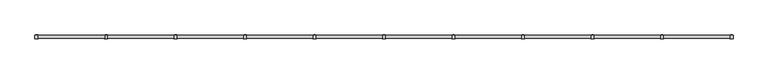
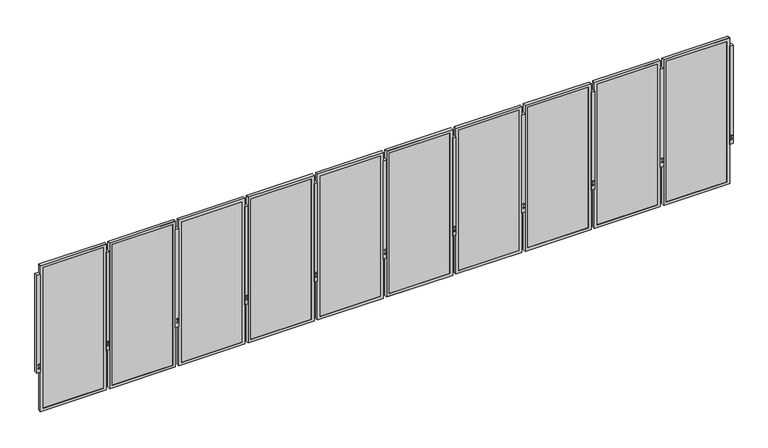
"""IFC4 building model written with IfcOpenShell, lengths in millimetres: railing geometry, Railing - Amico Architectural - Expanded Mesh Railing - Apex03."""

import ifcopenshell
import ifcopenshell.guid

model = None  # the IFC model being written
_history = None  # IfcOwnerHistory: only IFC2X3 demands one
_inside = {}  # id of a spatial element -> (the spatial element, [elements in it])
_under = {}  # id of a project, library or spatial element -> (it, [spatial elements below it])
_declared = {}  # id of a project -> (the project, [libraries it declares])
_typed = {}  # id of a type object -> (the type object, [elements of that type])
_made_of = {}  # id of a material, layer set ... -> (it, [elements and type objects made of it])


def new_model(schema):
    """Start an empty IFC model of exactly this schema.

    Asked for "IFC4X3", IfcOpenShell would pick the latest addendum, in which some entities
    have other attributes; the version numbers below select the first issue.
    IFC2X3 requires an IfcOwnerHistory on every rooted entity: one is made here for all.
    """
    global model, _history
    if schema == "IFC4X3":
        model = ifcopenshell.file(schema_version=(4, 3, 0, 0))
    else:
        model = ifcopenshell.file(schema=schema)
    _inside.clear()
    _under.clear()
    _declared.clear()
    _typed.clear()
    _made_of.clear()
    _history = None
    if model.schema == "IFC2X3":
        org = make("IfcOrganization", Name="unknown")
        user = make(
            "IfcPersonAndOrganization",
            ThePerson=make("IfcPerson", FamilyName="unknown"),
            TheOrganization=org,
        )
        app = make(
            "IfcApplication",
            ApplicationDeveloper=org,
            Version="unknown",
            ApplicationFullName="unknown",
            ApplicationIdentifier="unknown",
        )
        _history = make(
            "IfcOwnerHistory",
            OwningUser=user,
            OwningApplication=app,
            ChangeAction="ADDED",
            CreationDate=0,
        )
    return model


def make(cls, **values):
    """One entity of the class cls with the attributes given. An attribute that is None is left unset."""
    return model.create_entity(
        cls, **{name: value for name, value in values.items() if value is not None}
    )


def rooted(cls, **values):
    """An entity with a GlobalId (a new one), such as an element, a storey or a relation."""
    return make(cls, GlobalId=ifcopenshell.guid.new(), OwnerHistory=_history, **values)


def si_unit(unit_type, name, prefix=None):
    """IfcSIUnit, for example si_unit("LENGTHUNIT", "METRE", prefix="MILLI")."""
    return make("IfcSIUnit", UnitType=unit_type, Prefix=prefix, Name=name)


def assignment(units):
    """IfcUnitAssignment: the units of a project."""
    return None if units is None else make("IfcUnitAssignment", Units=units)


def point(xyz):
    """IfcCartesianPoint."""
    return None if xyz is None else make("IfcCartesianPoint", Coordinates=xyz)


def direction(xyz):
    """IfcDirection."""
    return None if xyz is None else make("IfcDirection", DirectionRatios=xyz)


def frame(location, z_axis=None, x_axis=None):
    """IfcAxis2Placement3D, a coordinate frame: its origin and axes. An axis left out is left unset."""
    return make(
        "IfcAxis2Placement3D",
        Location=point(location),
        Axis=direction(z_axis),
        RefDirection=direction(x_axis),
    )


def origin():
    """The frame at (0, 0, 0) with its axes left unset."""
    return frame((0.0, 0.0, 0.0))


def place(relative_to, where):
    """IfcLocalPlacement: puts the frame where relative to a parent placement (None: the world)."""
    return make(
        "IfcLocalPlacement", PlacementRelTo=relative_to, RelativePlacement=where
    )


def context(
    kind, dimensions, precision=None, world=None, true_north=None, identifier=None
):
    """IfcGeometricRepresentationContext, for example the 3D "Model" context."""
    return make(
        "IfcGeometricRepresentationContext",
        ContextIdentifier=identifier,
        ContextType=kind,
        CoordinateSpaceDimension=dimensions,
        Precision=precision,
        WorldCoordinateSystem=world,
        TrueNorth=true_north,
    )


def project(units=None, contexts=None):
    """IfcProject with its units and contexts."""
    return rooted(
        "IfcProject",
        Name="project",
        RepresentationContexts=contexts,
        UnitsInContext=assignment(units),
    )


def spatial(cls, under=None, at=None, **own):
    """A site, building, storey or space (cls), placed at a placement, below another one or the project."""
    s = rooted(cls, ObjectPlacement=at, **own)
    if under is not None:
        _under.setdefault(under.id(), (under, []))[1].append(s)
    return s


def polyline(points):
    """IfcPolyline through the points."""
    return make("IfcPolyline", Points=[point(p) for p in points])


def outline(outer, holes=None, kind="AREA"):
    """IfcArbitraryClosedProfileDef: a profile drawn as a closed curve; with holes, ...WithVoids."""
    if holes is None:
        return make("IfcArbitraryClosedProfileDef", ProfileType=kind, OuterCurve=outer)
    return make(
        "IfcArbitraryProfileDefWithVoids",
        ProfileType=kind,
        OuterCurve=outer,
        InnerCurves=holes,
    )


def extrude(swept, where, along, depth):
    """IfcExtrudedAreaSolid: the profile swept, set in the frame where, extruded along a direction by depth."""
    return make(
        "IfcExtrudedAreaSolid",
        SweptArea=swept,
        Position=where,
        ExtrudedDirection=direction(along),
        Depth=depth,
    )


def faces_of(points, faces, orient=None, outer=None):
    """IfcFace entities. A face is a list of loops; a loop is a list of indices into points, from 0.

    orient and outer hold one flag for each loop. By default every Orientation is true, the
    first loop of a face is its IfcFaceOuterBound and the others are IfcFaceBound.
    """
    made = []
    for i, loops in enumerate(faces):
        bounds = []
        for j, loop in enumerate(loops):
            is_outer = j == 0 if outer is None else outer[i][j]
            bounds.append(
                make(
                    "IfcFaceOuterBound" if is_outer else "IfcFaceBound",
                    Bound=make("IfcPolyLoop", Polygon=[points[k] for k in loop]),
                    Orientation=True if orient is None else orient[i][j],
                )
            )
        made.append(make("IfcFace", Bounds=bounds))
    return made


def faceted_brep(points, faces, orient=None, outer=None, voids=None):
    """IfcFacetedBrep: a solid bounded by flat faces; with voids (closed shells), ...WithVoids."""
    shared = [point(p) for p in points]
    hull = make("IfcClosedShell", CfsFaces=faces_of(shared, faces, orient, outer))
    if voids is None:
        return make("IfcFacetedBrep", Outer=hull)
    return make(
        "IfcFacetedBrepWithVoids",
        Outer=hull,
        Voids=[
            make(cls, CfsFaces=faces_of(shared, fs, o, b)) for cls, fs, o, b in voids
        ],
    )


def shape(context_of_items, identifier, shape_type, items):
    """IfcShapeRepresentation: the items that make up one representation, for example the "Body"."""
    return make(
        "IfcShapeRepresentation",
        ContextOfItems=context_of_items,
        RepresentationIdentifier=identifier,
        RepresentationType=shape_type,
        Items=items,
    )


def source(mapping_origin, context_of_items, identifier, shape_type, items):
    """IfcRepresentationMap: a shape defined once, which mapped items show again and again."""
    return make(
        "IfcRepresentationMap",
        MappingOrigin=mapping_origin,
        MappedRepresentation=shape(context_of_items, identifier, shape_type, items),
    )


def transform(
    local_origin,
    x_axis=None,
    y_axis=None,
    z_axis=None,
    scale=None,
    scale2=None,
    scale3=None,
    uniform=True,
):
    """IfcCartesianTransformationOperator3D, or its non-uniform kind. x_axis, y_axis, z_axis: its Axis1, 2, 3."""
    if uniform:
        return make(
            "IfcCartesianTransformationOperator3D",
            Axis1=direction(x_axis),
            Axis2=direction(y_axis),
            LocalOrigin=point(local_origin),
            Scale=scale,
            Axis3=direction(z_axis),
        )
    return make(
        "IfcCartesianTransformationOperator3DnonUniform",
        Axis1=direction(x_axis),
        Axis2=direction(y_axis),
        LocalOrigin=point(local_origin),
        Scale=scale,
        Axis3=direction(z_axis),
        Scale2=scale2,
        Scale3=scale3,
    )


def mapped(mapping_source, mapping_target):
    """IfcMappedItem: shows the shape of a source again, moved by a transform."""
    return make(
        "IfcMappedItem", MappingSource=mapping_source, MappingTarget=mapping_target
    )


def made_of(thing, what):
    """Note that an element or type object is made of a material, layer set ...; save() writes the relation."""
    if what is not None:
        _made_of.setdefault(what.id(), (what, []))[1].append(thing)
    return thing


def element(
    cls,
    number,
    at=None,
    inside=None,
    cuts=None,
    type_object=None,
    material=None,
    context=None,
    identifier="Body",
    shape_type=None,
    held_by="IfcProductDefinitionShape",
    body=None,
    shapes=None,
    **own,
):
    """One element of the class cls, such as IfcWall. Its Tag is "e" and its number.

    at: its placement. inside: the storey or other place that contains it. cuts: it is an
    opening in that element (IfcRelVoidsElement). A single representation is given by context,
    identifier, shape_type and body (its items); several are given by shapes. held_by: the class
    of the entity that holds the representations. save() writes the other relations.
    """
    e = rooted(cls, Tag="e%d" % number, ObjectPlacement=at, **own)
    if body is not None:
        shapes = [shape(context, identifier, shape_type, body)]
    if shapes is not None:
        e.Representation = make(held_by, Representations=shapes)
    if inside is not None:
        _inside.setdefault(inside.id(), (inside, []))[1].append(e)
    if cuts is not None:
        rooted(
            "IfcRelVoidsElement", RelatingBuildingElement=cuts, RelatedOpeningElement=e
        )
    if type_object is not None:
        _typed.setdefault(type_object.id(), (type_object, []))[1].append(e)
    return made_of(e, material)


def aggregate(whole, parts):
    """IfcRelAggregates: a whole, such as a stair, and the parts it consists of."""
    return rooted("IfcRelAggregates", RelatingObject=whole, RelatedObjects=parts)


def save(model, path):
    """Write the relations noted so far, then the file.

    IfcRelAggregates (storeys below a building ...), IfcRelContainedInSpatialStructure (elements
    in a storey), IfcRelDefinesByType, IfcRelAssociatesMaterial and IfcRelDeclares: one each for
    every whole, place, type object, material and project.
    """
    for whole, parts in _under.values():
        aggregate(whole, parts)
    for where, things in _inside.values():
        rooted(
            "IfcRelContainedInSpatialStructure",
            RelatedElements=things,
            RelatingStructure=where,
        )
    for kind, things in _typed.values():
        rooted("IfcRelDefinesByType", RelatedObjects=things, RelatingType=kind)
    for what, things in _made_of.values():
        rooted("IfcRelAssociatesMaterial", RelatedObjects=things, RelatingMaterial=what)
    for by, libraries in _declared.values():
        rooted("IfcRelDeclares", RelatingContext=by, RelatedDefinitions=libraries)
    model.write(path)


def railing_6d0a6d45(model_context):
    return source(origin(), model_context, "Body", "SolidModel", [
        extrude(outline(polyline([(-18536.7626958, -25626.6702664), (-18485.9626958, -25626.6702664), (-18485.9626958, -25677.4702664), (-18536.7626958, -25677.4702664), (-18536.7626958, -25626.6702664)])), frame((0.0, 0.0, -609.6), z_axis=(0.0, 0.0, 1.0), x_axis=(1.0, 0.0, 0.0)), (0.0, 0.0, 1.0), 1524.0),
        extrude(outline(polyline([(-530.1129981, -18521.783266), (-542.3802561, -18518.4962641), (-545.667258, -18506.2290061), (-536.6870019, -18497.24875), (-524.4197439, -18500.5357519), (-521.132742, -18512.8030099), (-530.1129981, -18521.783266)])), frame((0.0, -25679.3169542, 0.0), z_axis=(0.0, 1.0, 0.0), x_axis=(0.0, 0.0, 1.0)), (0.0, 0.0, 1.0), 54.4933756),
        extrude(outline(polyline([(-479.3129981, -18521.783266), (-491.5802561, -18518.4962641), (-494.867258, -18506.2290061), (-485.8870019, -18497.24875), (-473.6197439, -18500.5357519), (-470.332742, -18512.8030099), (-479.3129981, -18521.783266)])), frame((0.0, -25679.3169542, 0.0), z_axis=(0.0, 1.0, 0.0), x_axis=(0.0, 0.0, 1.0)), (0.0, 0.0, 1.0), 54.4933756),
        faceted_brep([(-19503.1671492, -25673.8634664, -1222.375), (-18534.7921492, -25673.8634664, -1222.375), (-18534.7921492, -25673.8634664, 1044.575), (-19503.1671492, -25673.8634664, 1044.575), (-19461.8921492, -25673.8634664, 1003.3), (-18576.0671492, -25673.8634664, 1003.3), (-18576.0671492, -25673.8634664, -1181.1), (-19461.8921492, -25673.8634664, -1181.1), (-19461.8921492, -25671.1202664, 1003.3), (-19461.8921492, -25671.1202664, -1181.1), (-19503.1671492, -25629.9901699, 1044.575), (-19503.1671492, -25629.9901699, -1222.375), (-19499.9921492, -25629.9901699, 1041.4), (-19499.9921492, -25671.1202664, 1041.4), (-19499.9921492, -25671.1202664, -1219.2), (-19499.9921492, -25629.9901699, -1219.2), (-18576.0671492, -25671.1202664, -1181.1), (-18534.7921492, -25629.9901699, -1222.375), (-18537.9671492, -25671.1202664, -1219.2), (-18537.9671492, -25629.9901699, -1219.2), (-18576.0671492, -25671.1202664, 1003.3), (-18534.7921492, -25629.9901699, 1044.575), (-18537.9671492, -25671.1202664, 1041.4), (-18537.9671492, -25629.9901699, 1041.4)], [[[0, 1, 2, 3], [4, 5, 6, 7]], [[8, 4, 7, 9]], [[3, 10, 11, 0]], [[12, 13, 14, 15]], [[9, 7, 6, 16]], [[0, 11, 17, 1]], [[15, 14, 18, 19]], [[16, 6, 5, 20]], [[1, 17, 21, 2]], [[19, 18, 22, 23]], [[20, 5, 4, 8]], [[10, 21, 17, 11], [15, 19, 23, 12]], [[2, 21, 10, 3]], [[13, 22, 18, 14], [9, 16, 20, 8]], [[23, 22, 13, 12]]]),
        extrude(outline(polyline([(-19499.9921492, -25661.5952664), (-18537.9671492, -25661.5952664), (-18537.9671492, -25671.1202664), (-19499.9921492, -25671.1202664), (-19499.9921492, -25661.5952664)])), frame((0.0, 0.0, -1219.2), z_axis=(0.0, 0.0, 1.0), x_axis=(1.0, 0.0, 0.0)), (0.0, 0.0, 1.0), 2260.6),
        extrude(outline(polyline([(-19554.3501958, -25626.6702664), (-19503.5501958, -25626.6702664), (-19503.5501958, -25677.4702664), (-19554.3501958, -25677.4702664), (-19554.3501958, -25626.6702664)])), frame((0.0, 0.0, -609.6), z_axis=(0.0, 0.0, 1.0), x_axis=(1.0, 0.0, 0.0)), (0.0, 0.0, 1.0), 1524.0),
        extrude(outline(polyline([(-530.1129981, -19539.370766), (-542.3802561, -19536.0837641), (-545.667258, -19523.8165061), (-536.6870019, -19514.83625), (-524.4197439, -19518.1232519), (-521.132742, -19530.3905099), (-530.1129981, -19539.370766)])), frame((0.0, -25679.3169542, 0.0), z_axis=(0.0, 1.0, 0.0), x_axis=(0.0, 0.0, 1.0)), (0.0, 0.0, 1.0), 54.4933756),
        extrude(outline(polyline([(-479.3129981, -19539.370766), (-491.5802561, -19536.0837641), (-494.867258, -19523.8165061), (-485.8870019, -19514.83625), (-473.6197439, -19518.1232519), (-470.332742, -19530.3905099), (-479.3129981, -19539.370766)])), frame((0.0, -25679.3169542, 0.0), z_axis=(0.0, 1.0, 0.0), x_axis=(0.0, 0.0, 1.0)), (0.0, 0.0, 1.0), 54.4933756),
        faceted_brep([(-20520.7546492, -25673.8634664, -1222.375), (-19552.3796492, -25673.8634664, -1222.375), (-19552.3796492, -25673.8634664, 1044.575), (-20520.7546492, -25673.8634664, 1044.575), (-20479.4796492, -25673.8634664, 1003.3), (-19593.6546492, -25673.8634664, 1003.3), (-19593.6546492, -25673.8634664, -1181.1), (-20479.4796492, -25673.8634664, -1181.1), (-20479.4796492, -25671.1202664, 1003.3), (-20479.4796492, -25671.1202664, -1181.1), (-20520.7546492, -25629.9901699, 1044.575), (-20520.7546492, -25629.9901699, -1222.375), (-20517.5796492, -25629.9901699, 1041.4), (-20517.5796492, -25671.1202664, 1041.4), (-20517.5796492, -25671.1202664, -1219.2), (-20517.5796492, -25629.9901699, -1219.2), (-19593.6546492, -25671.1202664, -1181.1), (-19552.3796492, -25629.9901699, -1222.375), (-19555.5546492, -25671.1202664, -1219.2), (-19555.5546492, -25629.9901699, -1219.2), (-19593.6546492, -25671.1202664, 1003.3), (-19552.3796492, -25629.9901699, 1044.575), (-19555.5546492, -25671.1202664, 1041.4), (-19555.5546492, -25629.9901699, 1041.4)], [[[0, 1, 2, 3], [4, 5, 6, 7]], [[8, 4, 7, 9]], [[3, 10, 11, 0]], [[12, 13, 14, 15]], [[9, 7, 6, 16]], [[0, 11, 17, 1]], [[15, 14, 18, 19]], [[16, 6, 5, 20]], [[1, 17, 21, 2]], [[19, 18, 22, 23]], [[20, 5, 4, 8]], [[10, 21, 17, 11], [15, 19, 23, 12]], [[2, 21, 10, 3]], [[13, 22, 18, 14], [9, 16, 20, 8]], [[23, 22, 13, 12]]]),
        extrude(outline(polyline([(-20517.5796492, -25661.5952664), (-19555.5546492, -25661.5952664), (-19555.5546492, -25671.1202664), (-20517.5796492, -25671.1202664), (-20517.5796492, -25661.5952664)])), frame((0.0, 0.0, -1219.2), z_axis=(0.0, 0.0, 1.0), x_axis=(1.0, 0.0, 0.0)), (0.0, 0.0, 1.0), 2260.6),
        extrude(outline(polyline([(-20571.9376958, -25626.6702664), (-20521.1376958, -25626.6702664), (-20521.1376958, -25677.4702664), (-20571.9376958, -25677.4702664), (-20571.9376958, -25626.6702664)])), frame((0.0, 0.0, -609.6), z_axis=(0.0, 0.0, 1.0), x_axis=(1.0, 0.0, 0.0)), (0.0, 0.0, 1.0), 1524.0),
        extrude(outline(polyline([(-530.1129981, -20556.958266), (-542.3802561, -20553.6712641), (-545.667258, -20541.4040061), (-536.6870019, -20532.42375), (-524.4197439, -20535.7107519), (-521.132742, -20547.9780099), (-530.1129981, -20556.958266)])), frame((0.0, -25679.3169542, 0.0), z_axis=(0.0, 1.0, 0.0), x_axis=(0.0, 0.0, 1.0)), (0.0, 0.0, 1.0), 54.4933756),
        extrude(outline(polyline([(-479.3129981, -20556.958266), (-491.5802561, -20553.6712641), (-494.867258, -20541.4040061), (-485.8870019, -20532.42375), (-473.6197439, -20535.7107519), (-470.332742, -20547.9780099), (-479.3129981, -20556.958266)])), frame((0.0, -25679.3169542, 0.0), z_axis=(0.0, 1.0, 0.0), x_axis=(0.0, 0.0, 1.0)), (0.0, 0.0, 1.0), 54.4933756),
        faceted_brep([(-21538.3421492, -25673.8634664, -1222.375), (-20569.9671492, -25673.8634664, -1222.375), (-20569.9671492, -25673.8634664, 1044.575), (-21538.3421492, -25673.8634664, 1044.575), (-21497.0671492, -25673.8634664, 1003.3), (-20611.2421492, -25673.8634664, 1003.3), (-20611.2421492, -25673.8634664, -1181.1), (-21497.0671492, -25673.8634664, -1181.1), (-21497.0671492, -25671.1202664, 1003.3), (-21497.0671492, -25671.1202664, -1181.1), (-21538.3421492, -25629.9901699, 1044.575), (-21538.3421492, -25629.9901699, -1222.375), (-21535.1671492, -25629.9901699, 1041.4), (-21535.1671492, -25671.1202664, 1041.4), (-21535.1671492, -25671.1202664, -1219.2), (-21535.1671492, -25629.9901699, -1219.2), (-20611.2421492, -25671.1202664, -1181.1), (-20569.9671492, -25629.9901699, -1222.375), (-20573.1421492, -25671.1202664, -1219.2), (-20573.1421492, -25629.9901699, -1219.2), (-20611.2421492, -25671.1202664, 1003.3), (-20569.9671492, -25629.9901699, 1044.575), (-20573.1421492, -25671.1202664, 1041.4), (-20573.1421492, -25629.9901699, 1041.4)], [[[0, 1, 2, 3], [4, 5, 6, 7]], [[8, 4, 7, 9]], [[3, 10, 11, 0]], [[12, 13, 14, 15]], [[9, 7, 6, 16]], [[0, 11, 17, 1]], [[15, 14, 18, 19]], [[16, 6, 5, 20]], [[1, 17, 21, 2]], [[19, 18, 22, 23]], [[20, 5, 4, 8]], [[10, 21, 17, 11], [15, 19, 23, 12]], [[2, 21, 10, 3]], [[13, 22, 18, 14], [9, 16, 20, 8]], [[23, 22, 13, 12]]]),
        extrude(outline(polyline([(-21535.1671492, -25661.5952664), (-20573.1421492, -25661.5952664), (-20573.1421492, -25671.1202664), (-21535.1671492, -25671.1202664), (-21535.1671492, -25661.5952664)])), frame((0.0, 0.0, -1219.2), z_axis=(0.0, 0.0, 1.0), x_axis=(1.0, 0.0, 0.0)), (0.0, 0.0, 1.0), 2260.6),
        extrude(outline(polyline([(-21589.5251958, -25626.6702664), (-21538.7251958, -25626.6702664), (-21538.7251958, -25677.4702664), (-21589.5251958, -25677.4702664), (-21589.5251958, -25626.6702664)])), frame((0.0, 0.0, -609.6), z_axis=(0.0, 0.0, 1.0), x_axis=(1.0, 0.0, 0.0)), (0.0, 0.0, 1.0), 1524.0),
        extrude(outline(polyline([(-530.1129981, -21574.545766), (-542.3802561, -21571.2587641), (-545.667258, -21558.9915061), (-536.6870019, -21550.01125), (-524.4197439, -21553.2982519), (-521.132742, -21565.5655099), (-530.1129981, -21574.545766)])), frame((0.0, -25679.3169542, 0.0), z_axis=(0.0, 1.0, 0.0), x_axis=(0.0, 0.0, 1.0)), (0.0, 0.0, 1.0), 54.4933756),
        extrude(outline(polyline([(-479.3129981, -21574.545766), (-491.5802561, -21571.2587641), (-494.867258, -21558.9915061), (-485.8870019, -21550.01125), (-473.6197439, -21553.2982519), (-470.332742, -21565.5655099), (-479.3129981, -21574.545766)])), frame((0.0, -25679.3169542, 0.0), z_axis=(0.0, 1.0, 0.0), x_axis=(0.0, 0.0, 1.0)), (0.0, 0.0, 1.0), 54.4933756),
        faceted_brep([(-22555.9296492, -25673.8634664, -1222.375), (-21587.5546492, -25673.8634664, -1222.375), (-21587.5546492, -25673.8634664, 1044.575), (-22555.9296492, -25673.8634664, 1044.575), (-22514.6546492, -25673.8634664, 1003.3), (-21628.8296492, -25673.8634664, 1003.3), (-21628.8296492, -25673.8634664, -1181.1), (-22514.6546492, -25673.8634664, -1181.1), (-22514.6546492, -25671.1202664, 1003.3), (-22514.6546492, -25671.1202664, -1181.1), (-22555.9296492, -25629.9901699, 1044.575), (-22555.9296492, -25629.9901699, -1222.375), (-22552.7546492, -25629.9901699, 1041.4), (-22552.7546492, -25671.1202664, 1041.4), (-22552.7546492, -25671.1202664, -1219.2), (-22552.7546492, -25629.9901699, -1219.2), (-21628.8296492, -25671.1202664, -1181.1), (-21587.5546492, -25629.9901699, -1222.375), (-21590.7296492, -25671.1202664, -1219.2), (-21590.7296492, -25629.9901699, -1219.2), (-21628.8296492, -25671.1202664, 1003.3), (-21587.5546492, -25629.9901699, 1044.575), (-21590.7296492, -25671.1202664, 1041.4), (-21590.7296492, -25629.9901699, 1041.4)], [[[0, 1, 2, 3], [4, 5, 6, 7]], [[8, 4, 7, 9]], [[3, 10, 11, 0]], [[12, 13, 14, 15]], [[9, 7, 6, 16]], [[0, 11, 17, 1]], [[15, 14, 18, 19]], [[16, 6, 5, 20]], [[1, 17, 21, 2]], [[19, 18, 22, 23]], [[20, 5, 4, 8]], [[10, 21, 17, 11], [15, 19, 23, 12]], [[2, 21, 10, 3]], [[13, 22, 18, 14], [9, 16, 20, 8]], [[23, 22, 13, 12]]]),
        extrude(outline(polyline([(-22552.7546492, -25661.5952664), (-21590.7296492, -25661.5952664), (-21590.7296492, -25671.1202664), (-22552.7546492, -25671.1202664), (-22552.7546492, -25661.5952664)])), frame((0.0, 0.0, -1219.2), z_axis=(0.0, 0.0, 1.0), x_axis=(1.0, 0.0, 0.0)), (0.0, 0.0, 1.0), 2260.6),
        extrude(outline(polyline([(-22607.1126958, -25626.6702664), (-22556.3126958, -25626.6702664), (-22556.3126958, -25677.4702664), (-22607.1126958, -25677.4702664), (-22607.1126958, -25626.6702664)])), frame((0.0, 0.0, -609.6), z_axis=(0.0, 0.0, 1.0), x_axis=(1.0, 0.0, 0.0)), (0.0, 0.0, 1.0), 1524.0),
        extrude(outline(polyline([(-530.1129981, -22592.133266), (-542.3802561, -22588.8462641), (-545.667258, -22576.5790061), (-536.6870019, -22567.59875), (-524.4197439, -22570.8857519), (-521.132742, -22583.1530099), (-530.1129981, -22592.133266)])), frame((0.0, -25679.3169542, 0.0), z_axis=(0.0, 1.0, 0.0), x_axis=(0.0, 0.0, 1.0)), (0.0, 0.0, 1.0), 54.4933756),
        extrude(outline(polyline([(-479.3129981, -22592.133266), (-491.5802561, -22588.8462641), (-494.867258, -22576.5790061), (-485.8870019, -22567.59875), (-473.6197439, -22570.8857519), (-470.332742, -22583.1530099), (-479.3129981, -22592.133266)])), frame((0.0, -25679.3169542, 0.0), z_axis=(0.0, 1.0, 0.0), x_axis=(0.0, 0.0, 1.0)), (0.0, 0.0, 1.0), 54.4933756),
        faceted_brep([(-23573.5171492, -25673.8634664, -1222.375), (-22605.1421492, -25673.8634664, -1222.375), (-22605.1421492, -25673.8634664, 1044.575), (-23573.5171492, -25673.8634664, 1044.575), (-23532.2421492, -25673.8634664, 1003.3), (-22646.4171492, -25673.8634664, 1003.3), (-22646.4171492, -25673.8634664, -1181.1), (-23532.2421492, -25673.8634664, -1181.1), (-23532.2421492, -25671.1202664, 1003.3), (-23532.2421492, -25671.1202664, -1181.1), (-23573.5171492, -25629.9901699, 1044.575), (-23573.5171492, -25629.9901699, -1222.375), (-23570.3421492, -25629.9901699, 1041.4), (-23570.3421492, -25671.1202664, 1041.4), (-23570.3421492, -25671.1202664, -1219.2), (-23570.3421492, -25629.9901699, -1219.2), (-22646.4171492, -25671.1202664, -1181.1), (-22605.1421492, -25629.9901699, -1222.375), (-22608.3171492, -25671.1202664, -1219.2), (-22608.3171492, -25629.9901699, -1219.2), (-22646.4171492, -25671.1202664, 1003.3), (-22605.1421492, -25629.9901699, 1044.575), (-22608.3171492, -25671.1202664, 1041.4), (-22608.3171492, -25629.9901699, 1041.4)], [[[0, 1, 2, 3], [4, 5, 6, 7]], [[8, 4, 7, 9]], [[3, 10, 11, 0]], [[12, 13, 14, 15]], [[9, 7, 6, 16]], [[0, 11, 17, 1]], [[15, 14, 18, 19]], [[16, 6, 5, 20]], [[1, 17, 21, 2]], [[19, 18, 22, 23]], [[20, 5, 4, 8]], [[10, 21, 17, 11], [15, 19, 23, 12]], [[2, 21, 10, 3]], [[13, 22, 18, 14], [9, 16, 20, 8]], [[23, 22, 13, 12]]]),
        extrude(outline(polyline([(-23570.3421492, -25661.5952664), (-22608.3171492, -25661.5952664), (-22608.3171492, -25671.1202664), (-23570.3421492, -25671.1202664), (-23570.3421492, -25661.5952664)])), frame((0.0, 0.0, -1219.2), z_axis=(0.0, 0.0, 1.0), x_axis=(1.0, 0.0, 0.0)), (0.0, 0.0, 1.0), 2260.6),
        extrude(outline(polyline([(-23624.7001958, -25626.6702664), (-23573.9001958, -25626.6702664), (-23573.9001958, -25677.4702664), (-23624.7001958, -25677.4702664), (-23624.7001958, -25626.6702664)])), frame((0.0, 0.0, -609.6), z_axis=(0.0, 0.0, 1.0), x_axis=(1.0, 0.0, 0.0)), (0.0, 0.0, 1.0), 1524.0),
        extrude(outline(polyline([(-530.1129981, -23609.720766), (-542.3802561, -23606.4337641), (-545.667258, -23594.1665061), (-536.6870019, -23585.18625), (-524.4197439, -23588.4732519), (-521.132742, -23600.7405099), (-530.1129981, -23609.720766)])), frame((0.0, -25679.3169542, 0.0), z_axis=(0.0, 1.0, 0.0), x_axis=(0.0, 0.0, 1.0)), (0.0, 0.0, 1.0), 54.4933756),
        extrude(outline(polyline([(-479.3129981, -23609.720766), (-491.5802561, -23606.4337641), (-494.867258, -23594.1665061), (-485.8870019, -23585.18625), (-473.6197439, -23588.4732519), (-470.332742, -23600.7405099), (-479.3129981, -23609.720766)])), frame((0.0, -25679.3169542, 0.0), z_axis=(0.0, 1.0, 0.0), x_axis=(0.0, 0.0, 1.0)), (0.0, 0.0, 1.0), 54.4933756),
        faceted_brep([(-24591.1046492, -25673.8634664, -1222.375), (-23622.7296492, -25673.8634664, -1222.375), (-23622.7296492, -25673.8634664, 1044.575), (-24591.1046492, -25673.8634664, 1044.575), (-24549.8296492, -25673.8634664, 1003.3), (-23664.0046492, -25673.8634664, 1003.3), (-23664.0046492, -25673.8634664, -1181.1), (-24549.8296492, -25673.8634664, -1181.1), (-24549.8296492, -25671.1202664, 1003.3), (-24549.8296492, -25671.1202664, -1181.1), (-24591.1046492, -25629.9901699, 1044.575), (-24591.1046492, -25629.9901699, -1222.375), (-24587.9296492, -25629.9901699, 1041.4), (-24587.9296492, -25671.1202664, 1041.4), (-24587.9296492, -25671.1202664, -1219.2), (-24587.9296492, -25629.9901699, -1219.2), (-23664.0046492, -25671.1202664, -1181.1), (-23622.7296492, -25629.9901699, -1222.375), (-23625.9046492, -25671.1202664, -1219.2), (-23625.9046492, -25629.9901699, -1219.2), (-23664.0046492, -25671.1202664, 1003.3), (-23622.7296492, -25629.9901699, 1044.575), (-23625.9046492, -25671.1202664, 1041.4), (-23625.9046492, -25629.9901699, 1041.4)], [[[0, 1, 2, 3], [4, 5, 6, 7]], [[8, 4, 7, 9]], [[3, 10, 11, 0]], [[12, 13, 14, 15]], [[9, 7, 6, 16]], [[0, 11, 17, 1]], [[15, 14, 18, 19]], [[16, 6, 5, 20]], [[1, 17, 21, 2]], [[19, 18, 22, 23]], [[20, 5, 4, 8]], [[10, 21, 17, 11], [15, 19, 23, 12]], [[2, 21, 10, 3]], [[13, 22, 18, 14], [9, 16, 20, 8]], [[23, 22, 13, 12]]]),
        extrude(outline(polyline([(-24587.9296492, -25661.5952664), (-23625.9046492, -25661.5952664), (-23625.9046492, -25671.1202664), (-24587.9296492, -25671.1202664), (-24587.9296492, -25661.5952664)])), frame((0.0, 0.0, -1219.2), z_axis=(0.0, 0.0, 1.0), x_axis=(1.0, 0.0, 0.0)), (0.0, 0.0, 1.0), 2260.6),
        extrude(outline(polyline([(-24642.2876958, -25626.6702664), (-24591.4876958, -25626.6702664), (-24591.4876958, -25677.4702664), (-24642.2876958, -25677.4702664), (-24642.2876958, -25626.6702664)])), frame((0.0, 0.0, -609.6), z_axis=(0.0, 0.0, 1.0), x_axis=(1.0, 0.0, 0.0)), (0.0, 0.0, 1.0), 1524.0),
        extrude(outline(polyline([(-530.1129981, -24627.308266), (-542.3802561, -24624.0212641), (-545.667258, -24611.7540061), (-536.6870019, -24602.77375), (-524.4197439, -24606.0607519), (-521.132742, -24618.3280099), (-530.1129981, -24627.308266)])), frame((0.0, -25679.3169542, 0.0), z_axis=(0.0, 1.0, 0.0), x_axis=(0.0, 0.0, 1.0)), (0.0, 0.0, 1.0), 54.4933756),
        extrude(outline(polyline([(-479.3129981, -24627.308266), (-491.5802561, -24624.0212641), (-494.867258, -24611.7540061), (-485.8870019, -24602.77375), (-473.6197439, -24606.0607519), (-470.332742, -24618.3280099), (-479.3129981, -24627.308266)])), frame((0.0, -25679.3169542, 0.0), z_axis=(0.0, 1.0, 0.0), x_axis=(0.0, 0.0, 1.0)), (0.0, 0.0, 1.0), 54.4933756),
        faceted_brep([(-25608.6921492, -25673.8634664, -1222.375), (-24640.3171492, -25673.8634664, -1222.375), (-24640.3171492, -25673.8634664, 1044.575), (-25608.6921492, -25673.8634664, 1044.575), (-25567.4171492, -25673.8634664, 1003.3), (-24681.5921492, -25673.8634664, 1003.3), (-24681.5921492, -25673.8634664, -1181.1), (-25567.4171492, -25673.8634664, -1181.1), (-25567.4171492, -25671.1202664, 1003.3), (-25567.4171492, -25671.1202664, -1181.1), (-25608.6921492, -25629.9901699, 1044.575), (-25608.6921492, -25629.9901699, -1222.375), (-25605.5171492, -25629.9901699, 1041.4), (-25605.5171492, -25671.1202664, 1041.4), (-25605.5171492, -25671.1202664, -1219.2), (-25605.5171492, -25629.9901699, -1219.2), (-24681.5921492, -25671.1202664, -1181.1), (-24640.3171492, -25629.9901699, -1222.375), (-24643.4921492, -25671.1202664, -1219.2), (-24643.4921492, -25629.9901699, -1219.2), (-24681.5921492, -25671.1202664, 1003.3), (-24640.3171492, -25629.9901699, 1044.575), (-24643.4921492, -25671.1202664, 1041.4), (-24643.4921492, -25629.9901699, 1041.4)], [[[0, 1, 2, 3], [4, 5, 6, 7]], [[8, 4, 7, 9]], [[3, 10, 11, 0]], [[12, 13, 14, 15]], [[9, 7, 6, 16]], [[0, 11, 17, 1]], [[15, 14, 18, 19]], [[16, 6, 5, 20]], [[1, 17, 21, 2]], [[19, 18, 22, 23]], [[20, 5, 4, 8]], [[10, 21, 17, 11], [15, 19, 23, 12]], [[2, 21, 10, 3]], [[13, 22, 18, 14], [9, 16, 20, 8]], [[23, 22, 13, 12]]]),
        extrude(outline(polyline([(-25605.5171492, -25661.5952664), (-24643.4921492, -25661.5952664), (-24643.4921492, -25671.1202664), (-25605.5171492, -25671.1202664), (-25605.5171492, -25661.5952664)])), frame((0.0, 0.0, -1219.2), z_axis=(0.0, 0.0, 1.0), x_axis=(1.0, 0.0, 0.0)), (0.0, 0.0, 1.0), 2260.6),
        extrude(outline(polyline([(-25659.8751958, -25626.6702664), (-25609.0751958, -25626.6702664), (-25609.0751958, -25677.4702664), (-25659.8751958, -25677.4702664), (-25659.8751958, -25626.6702664)])), frame((0.0, 0.0, -609.6), z_axis=(0.0, 0.0, 1.0), x_axis=(1.0, 0.0, 0.0)), (0.0, 0.0, 1.0), 1524.0),
        extrude(outline(polyline([(-530.1129981, -25644.895766), (-542.3802561, -25641.6087641), (-545.667258, -25629.3415061), (-536.6870019, -25620.36125), (-524.4197439, -25623.6482519), (-521.132742, -25635.9155099), (-530.1129981, -25644.895766)])), frame((0.0, -25679.3169542, 0.0), z_axis=(0.0, 1.0, 0.0), x_axis=(0.0, 0.0, 1.0)), (0.0, 0.0, 1.0), 54.4933756),
        extrude(outline(polyline([(-479.3129981, -25644.895766), (-491.5802561, -25641.6087641), (-494.867258, -25629.3415061), (-485.8870019, -25620.36125), (-473.6197439, -25623.6482519), (-470.332742, -25635.9155099), (-479.3129981, -25644.895766)])), frame((0.0, -25679.3169542, 0.0), z_axis=(0.0, 1.0, 0.0), x_axis=(0.0, 0.0, 1.0)), (0.0, 0.0, 1.0), 54.4933756),
        faceted_brep([(-26626.2796492, -25673.8634664, -1222.375), (-25657.9046492, -25673.8634664, -1222.375), (-25657.9046492, -25673.8634664, 1044.575), (-26626.2796492, -25673.8634664, 1044.575), (-26585.0046492, -25673.8634664, 1003.3), (-25699.1796492, -25673.8634664, 1003.3), (-25699.1796492, -25673.8634664, -1181.1), (-26585.0046492, -25673.8634664, -1181.1), (-26585.0046492, -25671.1202664, 1003.3), (-26585.0046492, -25671.1202664, -1181.1), (-26626.2796492, -25629.9901699, 1044.575), (-26626.2796492, -25629.9901699, -1222.375), (-26623.1046492, -25629.9901699, 1041.4), (-26623.1046492, -25671.1202664, 1041.4), (-26623.1046492, -25671.1202664, -1219.2), (-26623.1046492, -25629.9901699, -1219.2), (-25699.1796492, -25671.1202664, -1181.1), (-25657.9046492, -25629.9901699, -1222.375), (-25661.0796492, -25671.1202664, -1219.2), (-25661.0796492, -25629.9901699, -1219.2), (-25699.1796492, -25671.1202664, 1003.3), (-25657.9046492, -25629.9901699, 1044.575), (-25661.0796492, -25671.1202664, 1041.4), (-25661.0796492, -25629.9901699, 1041.4)], [[[0, 1, 2, 3], [4, 5, 6, 7]], [[8, 4, 7, 9]], [[3, 10, 11, 0]], [[12, 13, 14, 15]], [[9, 7, 6, 16]], [[0, 11, 17, 1]], [[15, 14, 18, 19]], [[16, 6, 5, 20]], [[1, 17, 21, 2]], [[19, 18, 22, 23]], [[20, 5, 4, 8]], [[10, 21, 17, 11], [15, 19, 23, 12]], [[2, 21, 10, 3]], [[13, 22, 18, 14], [9, 16, 20, 8]], [[23, 22, 13, 12]]]),
        extrude(outline(polyline([(-26623.1046492, -25661.5952664), (-25661.0796492, -25661.5952664), (-25661.0796492, -25671.1202664), (-26623.1046492, -25671.1202664), (-26623.1046492, -25661.5952664)])), frame((0.0, 0.0, -1219.2), z_axis=(0.0, 0.0, 1.0), x_axis=(1.0, 0.0, 0.0)), (0.0, 0.0, 1.0), 2260.6),
        extrude(outline(polyline([(-26677.4626958, -25626.6702664), (-26626.6626958, -25626.6702664), (-26626.6626958, -25677.4702664), (-26677.4626958, -25677.4702664), (-26677.4626958, -25626.6702664)])), frame((0.0, 0.0, -609.6), z_axis=(0.0, 0.0, 1.0), x_axis=(1.0, 0.0, 0.0)), (0.0, 0.0, 1.0), 1524.0),
        extrude(outline(polyline([(-530.1129981, -26662.483266), (-542.3802561, -26659.1962641), (-545.667258, -26646.9290061), (-536.6870019, -26637.94875), (-524.4197439, -26641.2357519), (-521.132742, -26653.5030099), (-530.1129981, -26662.483266)])), frame((0.0, -25679.3169542, 0.0), z_axis=(0.0, 1.0, 0.0), x_axis=(0.0, 0.0, 1.0)), (0.0, 0.0, 1.0), 54.4933756),
        extrude(outline(polyline([(-479.3129981, -26662.483266), (-491.5802561, -26659.1962641), (-494.867258, -26646.9290061), (-485.8870019, -26637.94875), (-473.6197439, -26641.2357519), (-470.332742, -26653.5030099), (-479.3129981, -26662.483266)])), frame((0.0, -25679.3169542, 0.0), z_axis=(0.0, 1.0, 0.0), x_axis=(0.0, 0.0, 1.0)), (0.0, 0.0, 1.0), 54.4933756),
        faceted_brep([(-27643.8671492, -25673.8634664, -1222.375), (-26675.4921492, -25673.8634664, -1222.375), (-26675.4921492, -25673.8634664, 1044.575), (-27643.8671492, -25673.8634664, 1044.575), (-27602.5921492, -25673.8634664, 1003.3), (-26716.7671492, -25673.8634664, 1003.3), (-26716.7671492, -25673.8634664, -1181.1), (-27602.5921492, -25673.8634664, -1181.1), (-27602.5921492, -25671.1202664, 1003.3), (-27602.5921492, -25671.1202664, -1181.1), (-27643.8671492, -25629.9901699, 1044.575), (-27643.8671492, -25629.9901699, -1222.375), (-27640.6921492, -25629.9901699, 1041.4), (-27640.6921492, -25671.1202664, 1041.4), (-27640.6921492, -25671.1202664, -1219.2), (-27640.6921492, -25629.9901699, -1219.2), (-26716.7671492, -25671.1202664, -1181.1), (-26675.4921492, -25629.9901699, -1222.375), (-26678.6671492, -25671.1202664, -1219.2), (-26678.6671492, -25629.9901699, -1219.2), (-26716.7671492, -25671.1202664, 1003.3), (-26675.4921492, -25629.9901699, 1044.575), (-26678.6671492, -25671.1202664, 1041.4), (-26678.6671492, -25629.9901699, 1041.4)], [[[0, 1, 2, 3], [4, 5, 6, 7]], [[8, 4, 7, 9]], [[3, 10, 11, 0]], [[12, 13, 14, 15]], [[9, 7, 6, 16]], [[0, 11, 17, 1]], [[15, 14, 18, 19]], [[16, 6, 5, 20]], [[1, 17, 21, 2]], [[19, 18, 22, 23]], [[20, 5, 4, 8]], [[10, 21, 17, 11], [15, 19, 23, 12]], [[2, 21, 10, 3]], [[13, 22, 18, 14], [9, 16, 20, 8]], [[23, 22, 13, 12]]]),
        extrude(outline(polyline([(-27640.6921492, -25661.5952664), (-26678.6671492, -25661.5952664), (-26678.6671492, -25671.1202664), (-27640.6921492, -25671.1202664), (-27640.6921492, -25661.5952664)])), frame((0.0, 0.0, -1219.2), z_axis=(0.0, 0.0, 1.0), x_axis=(1.0, 0.0, 0.0)), (0.0, 0.0, 1.0), 2260.6),
        extrude(outline(polyline([(-27695.0501958, -25626.6702664), (-27644.2501958, -25626.6702664), (-27644.2501958, -25677.4702664), (-27695.0501958, -25677.4702664), (-27695.0501958, -25626.6702664)])), frame((0.0, 0.0, -609.6), z_axis=(0.0, 0.0, 1.0), x_axis=(1.0, 0.0, 0.0)), (0.0, 0.0, 1.0), 1524.0),
        extrude(outline(polyline([(-530.1129981, -27680.070766), (-542.3802561, -27676.7837641), (-545.667258, -27664.5165061), (-536.6870019, -27655.53625), (-524.4197439, -27658.8232519), (-521.132742, -27671.0905099), (-530.1129981, -27680.070766)])), frame((0.0, -25679.3169542, 0.0), z_axis=(0.0, 1.0, 0.0), x_axis=(0.0, 0.0, 1.0)), (0.0, 0.0, 1.0), 54.4933756),
        extrude(outline(polyline([(-479.3129981, -27680.070766), (-491.5802561, -27676.7837641), (-494.867258, -27664.5165061), (-485.8870019, -27655.53625), (-473.6197439, -27658.8232519), (-470.332742, -27671.0905099), (-479.3129981, -27680.070766)])), frame((0.0, -25679.3169542, 0.0), z_axis=(0.0, 1.0, 0.0), x_axis=(0.0, 0.0, 1.0)), (0.0, 0.0, 1.0), 54.4933756),
        faceted_brep([(-28661.4546492, -25673.8634664, -1222.375), (-27693.0796492, -25673.8634664, -1222.375), (-27693.0796492, -25673.8634664, 1044.575), (-28661.4546492, -25673.8634664, 1044.575), (-28620.1796492, -25673.8634664, 1003.3), (-27734.3546492, -25673.8634664, 1003.3), (-27734.3546492, -25673.8634664, -1181.1), (-28620.1796492, -25673.8634664, -1181.1), (-28620.1796492, -25671.1202664, 1003.3), (-28620.1796492, -25671.1202664, -1181.1), (-28661.4546492, -25629.9901699, 1044.575), (-28661.4546492, -25629.9901699, -1222.375), (-28658.2796492, -25629.9901699, 1041.4), (-28658.2796492, -25671.1202664, 1041.4), (-28658.2796492, -25671.1202664, -1219.2), (-28658.2796492, -25629.9901699, -1219.2), (-27734.3546492, -25671.1202664, -1181.1), (-27693.0796492, -25629.9901699, -1222.375), (-27696.2546492, -25671.1202664, -1219.2), (-27696.2546492, -25629.9901699, -1219.2), (-27734.3546492, -25671.1202664, 1003.3), (-27693.0796492, -25629.9901699, 1044.575), (-27696.2546492, -25671.1202664, 1041.4), (-27696.2546492, -25629.9901699, 1041.4)], [[[0, 1, 2, 3], [4, 5, 6, 7]], [[8, 4, 7, 9]], [[3, 10, 11, 0]], [[12, 13, 14, 15]], [[9, 7, 6, 16]], [[0, 11, 17, 1]], [[15, 14, 18, 19]], [[16, 6, 5, 20]], [[1, 17, 21, 2]], [[19, 18, 22, 23]], [[20, 5, 4, 8]], [[10, 21, 17, 11], [15, 19, 23, 12]], [[2, 21, 10, 3]], [[13, 22, 18, 14], [9, 16, 20, 8]], [[23, 22, 13, 12]]]),
        extrude(outline(polyline([(-28658.2796492, -25661.5952664), (-27696.2546492, -25661.5952664), (-27696.2546492, -25671.1202664), (-28658.2796492, -25671.1202664), (-28658.2796492, -25661.5952664)])), frame((0.0, 0.0, -1219.2), z_axis=(0.0, 0.0, 1.0), x_axis=(1.0, 0.0, 0.0)), (0.0, 0.0, 1.0), 2260.6),
        extrude(outline(polyline([(-28712.6376958, -25626.6702664), (-28661.8376958, -25626.6702664), (-28661.8376958, -25677.4702664), (-28712.6376958, -25677.4702664), (-28712.6376958, -25626.6702664)])), frame((0.0, 0.0, -609.6), z_axis=(0.0, 0.0, 1.0), x_axis=(1.0, 0.0, 0.0)), (0.0, 0.0, 1.0), 1524.0),
        extrude(outline(polyline([(-530.1129981, -28697.658266), (-542.3802561, -28694.3712641), (-545.667258, -28682.1040061), (-536.6870019, -28673.12375), (-524.4197439, -28676.4107519), (-521.132742, -28688.6780099), (-530.1129981, -28697.658266)])), frame((0.0, -25679.3169542, 0.0), z_axis=(0.0, 1.0, 0.0), x_axis=(0.0, 0.0, 1.0)), (0.0, 0.0, 1.0), 54.4933756),
        extrude(outline(polyline([(-479.3129981, -28697.658266), (-491.5802561, -28694.3712641), (-494.867258, -28682.1040061), (-485.8870019, -28673.12375), (-473.6197439, -28676.4107519), (-470.332742, -28688.6780099), (-479.3129981, -28697.658266)])), frame((0.0, -25679.3169542, 0.0), z_axis=(0.0, 1.0, 0.0), x_axis=(0.0, 0.0, 1.0)), (0.0, 0.0, 1.0), 54.4933756),
    ])


if __name__ == "__main__":
    model = new_model("IFC4")
    model_context = context("Model", 3, world=origin())
    ifc_project = project(units=[si_unit("LENGTHUNIT", "METRE", prefix="MILLI")], contexts=[model_context])
    site = spatial("IfcSite", under=ifc_project)
    building = spatial("IfcBuilding", under=site)
    placement = place(None, origin())
    railing_shape = railing_6d0a6d45(model_context)
    element("IfcRailing", 1, ObjectType="Railing - Amico Architectural - Expanded Mesh Railing - Apex03", at=placement, inside=building, context=model_context, shape_type="MappedRepresentation", body=[
        mapped(railing_shape, transform((0.0, 0.0, 0.0), x_axis=(1.0, 0.0, 0.0), y_axis=(0.0, 1.0, 0.0), z_axis=(0.0, 0.0, 1.0))),
    ])
    save(model, "model.ifc")
